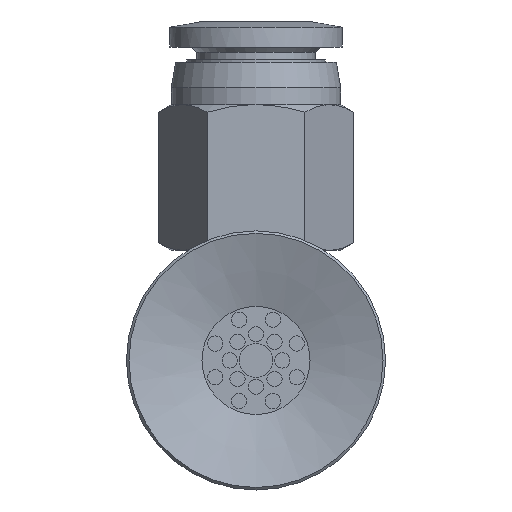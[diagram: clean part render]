
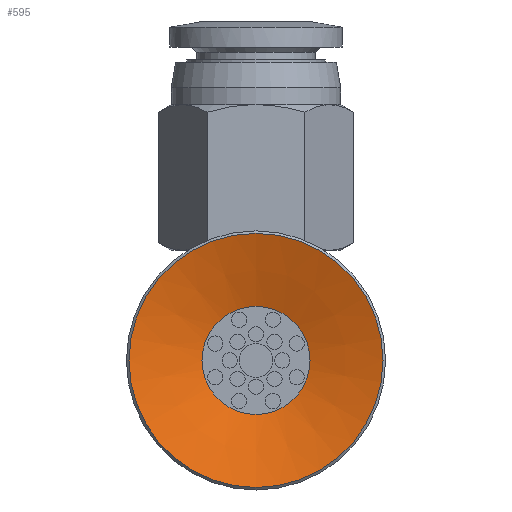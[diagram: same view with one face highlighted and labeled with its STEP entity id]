
A CAD part, front view. The second image highlights one B-rep face of the part: STEP entity #595.
In plain terms, the highlighted conical face has half-angle 72 degrees and reference radius 7.5 mm.
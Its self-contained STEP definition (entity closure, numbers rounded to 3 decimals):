
#595=ADVANCED_FACE('',(#1004,#1005),#1006,.F.);
#1004=FACE_BOUND('',#1705,.T.);
#1005=FACE_OUTER_BOUND('',#1706,.T.);
#1006=CONICAL_SURFACE('',#1707,7.5,1.257);
#1705=EDGE_LOOP('',(#2747));
#1706=EDGE_LOOP('',(#2748));
#1707=AXIS2_PLACEMENT_3D('',#2749,#2750,#2751);
#2747=ORIENTED_EDGE('',*,*,#3229,.T.);
#2748=ORIENTED_EDGE('',*,*,#3230,.F.);
#2749=CARTESIAN_POINT('',(0.0,0.,0.));
#2750=DIRECTION('',(0.0,0.,-1.0));
#2751=DIRECTION('',(0.0,1.0,0.));
#3229=EDGE_CURVE('',#3710,#3710,#3711,.T.);
#3230=EDGE_CURVE('',#3712,#3712,#3713,.T.);
#3710=VERTEX_POINT('',#4928);
#3711=CIRCLE('',#4929,3.191);
#3712=VERTEX_POINT('',#4930);
#3713=CIRCLE('',#4931,7.5);
#4928=CARTESIAN_POINT('',(0.0,-3.191,1.4));
#4929=AXIS2_PLACEMENT_3D('',#5411,#5412,#5413);
#4930=CARTESIAN_POINT('',(0.0,-7.5,0.));
#4931=AXIS2_PLACEMENT_3D('',#5414,#5415,#5416);
#5411=CARTESIAN_POINT('',(0.0,0.,1.4));
#5412=DIRECTION('',(0.0,0.,1.0));
#5413=DIRECTION('',(0.0,-1.0,0.));
#5414=CARTESIAN_POINT('',(0.0,0.,0.));
#5415=DIRECTION('',(0.0,0.,1.0));
#5416=DIRECTION('',(0.0,-1.0,0.));
